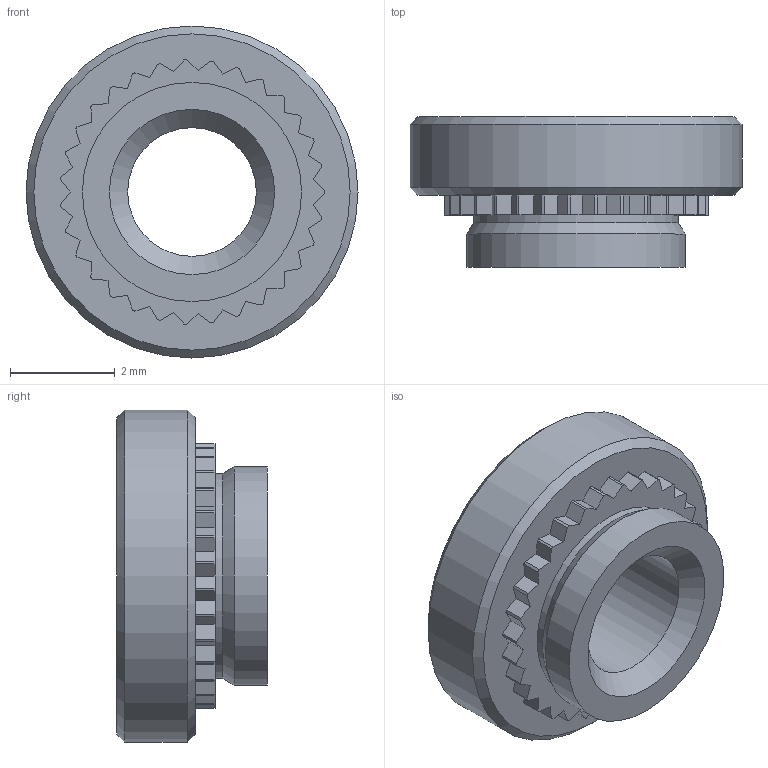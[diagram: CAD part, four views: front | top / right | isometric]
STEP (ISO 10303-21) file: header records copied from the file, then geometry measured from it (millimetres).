
FILE_DESCRIPTION(/* description */ (''),/* implementation_level */ '2;1');
FILE_NAME(/* name */ 'C:\Users\keval.kumar\Desktop\Fastit\Clinch nut\M3\Clinch Nut_M3_2.stp',/* time_stamp */ '2024-03-14T09:31:38+05:00',/* author */ ('keval.kumar'),/* organization */ (''),/* preprocessor_version */ 'ST-DEVELOPER v18.1',/* originating_system */ 'Autodesk Inventor 2022',/* authorisation */ '');
FILE_SCHEMA (('AUTOMOTIVE_DESIGN { 1 0 10303 214 3 1 1 }'));
Length unit declared in the file: millimetre
Products named in the file (1): Clinch Nut_M3_2
Bounding box: 6.35 x 2.88 x 6.35 mm (x, y, z)
Volume: 52.8 mm3; surface area: 122.5 mm2
Topology: 1 solids, 1 shells, 106 faces, 303 edges, 201 vertices
Faces by surface type: plane 66, cylinder 35, cone 5
Full cylindrical faces by diameter (mm): 2.459 x1, 3.91 x1, 4.19 x1, 6.35 x1
Entity records: 3507 total; most frequent: CARTESIAN_POINT 611, ORIENTED_EDGE 606, DIRECTION 594, EDGE_CURVE 303, LINE 226, VECTOR 226, VERTEX_POINT 201, AXIS2_PLACEMENT_3D 184
